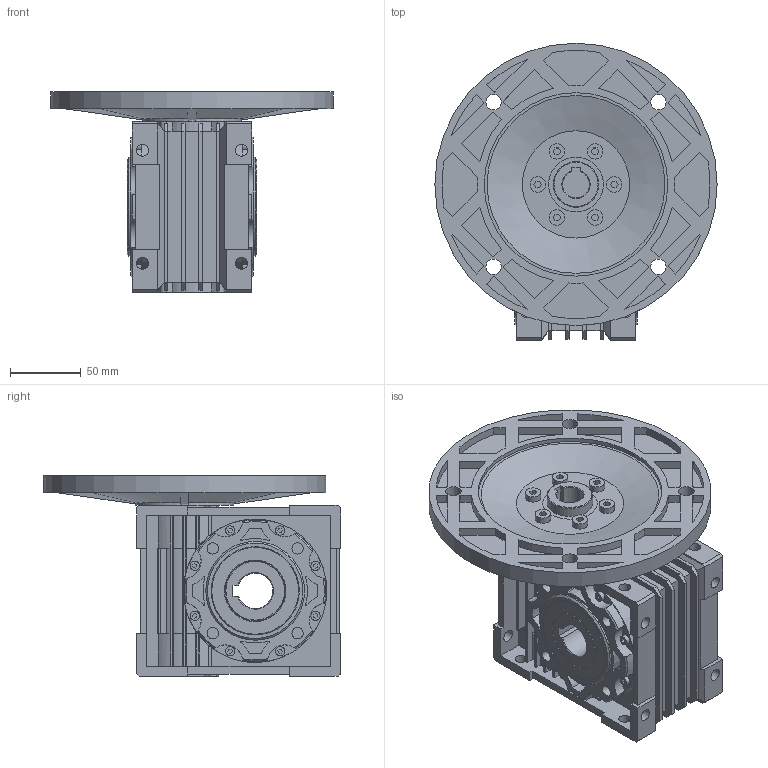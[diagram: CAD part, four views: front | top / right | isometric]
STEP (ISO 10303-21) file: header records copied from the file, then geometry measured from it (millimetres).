
FILE_DESCRIPTION(/* description */ (''),/* implementation_level */ '2;1');
FILE_NAME(/* name */ 'Z:\동력 3D 파일\PCMRV050_80B5_3D.stp',/* time_stamp */ '2021-12-01T16:41:33+09:00',/* author */ ('jaebok'),/* organization */ (''),/* preprocessor_version */ 'ST-DEVELOPER v18.1',/* originating_system */ 'Autodesk Inventor 2022',/* authorisation */ '');
FILE_SCHEMA (('AUTOMOTIVE_DESIGN { 1 0 10303 214 3 1 1 }'));
Length unit declared in the file: millimetre
Products named in the file (1): 부품45
Bounding box: 200 x 210.5 x 142 mm (x, y, z)
Volume: 1438519.1 mm3; surface area: 228336.8 mm2
Topology: 1 solids, 6 shells, 869 faces, 2248 edges, 1483 vertices
Faces by surface type: plane 559, cylinder 277, cone 33
Full cylindrical faces by diameter (mm): 3.188 x8, 6.5 x16, 8 x8, 8.5 x16, 10.925 x6, 11 x4, 32.3 x1, 38.76 x1, 41.5 x2, 42.5 x2, 62.5 x2, 70 x3, 101.6 x2, 130 x1, 200 x1
Entity records: 27825 total; most frequent: CARTESIAN_POINT 5049, DIRECTION 4548, ORIENTED_EDGE 4496, EDGE_CURVE 2248, LINE 1540, VECTOR 1540, AXIS2_PLACEMENT_3D 1504, VERTEX_POINT 1483
